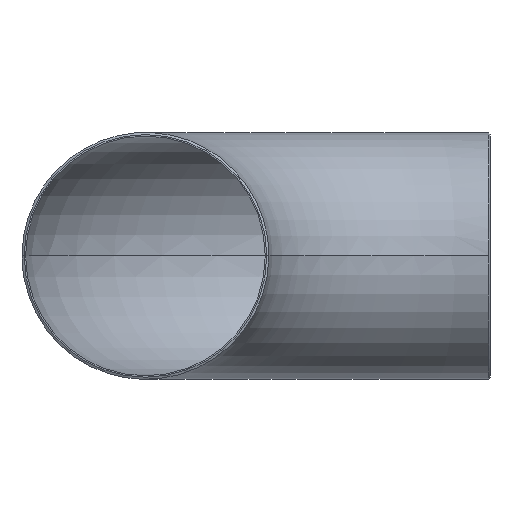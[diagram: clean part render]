
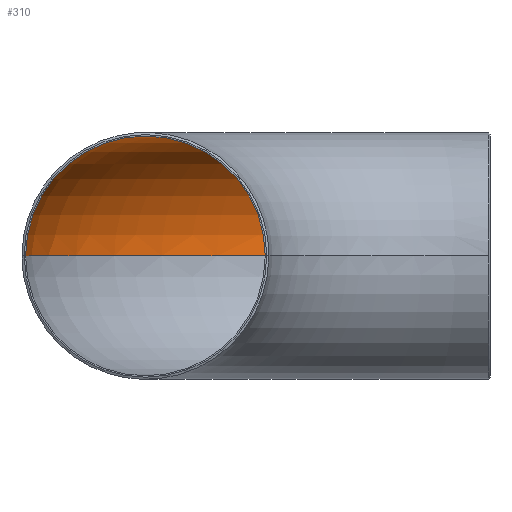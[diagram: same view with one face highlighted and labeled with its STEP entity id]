
A CAD part, front view. The second image highlights one B-rep face of the part: STEP entity #310.
In plain terms, the highlighted toroidal (fillet/blend) face has major radius 381 mm and minor radius 132.5 mm.
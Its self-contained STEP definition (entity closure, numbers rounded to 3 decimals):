
#5 = ORIENTED_EDGE ( 'NONE', *, *, #62, .T. ) ;
#16 = CIRCLE ( 'NONE', #535, 132.5 ) ;
#34 = VERTEX_POINT ( 'NONE', #73 ) ;
#59 = EDGE_LOOP ( 'NONE', ( #151, #491, #5, #279 ) ) ;
#62 = EDGE_CURVE ( 'NONE', #34, #305, #78, .T. ) ;
#73 = CARTESIAN_POINT ( 'NONE',  ( 381., 248.5, 0. ) ) ;
#78 = CIRCLE ( 'NONE', #488, 248.5 ) ;
#109 = DIRECTION ( 'NONE',  ( 1., 0., 0. ) ) ;
#114 = DIRECTION ( 'NONE',  ( 0., 0., 1. ) ) ;
#134 = VERTEX_POINT ( 'NONE', #232 ) ;
#145 = CARTESIAN_POINT ( 'NONE',  ( 381., 0., 0. ) ) ;
#151 = ORIENTED_EDGE ( 'NONE', *, *, #405, .F. ) ;
#175 = FACE_OUTER_BOUND ( 'NONE', #59, .T. ) ;
#196 = CIRCLE ( 'NONE', #456, 132.5 ) ;
#212 = CARTESIAN_POINT ( 'NONE',  ( 381., 0., 0. ) ) ;
#217 = DIRECTION ( 'NONE',  ( 0., 1., 0. ) ) ;
#232 = CARTESIAN_POINT ( 'NONE',  ( 381., 513.5, 0. ) ) ;
#236 = DIRECTION ( 'NONE',  ( 0., 0., 1. ) ) ;
#262 = DIRECTION ( 'NONE',  ( 1., 0., 0. ) ) ;
#265 = VERTEX_POINT ( 'NONE', #528 ) ;
#279 = ORIENTED_EDGE ( 'NONE', *, *, #308, .F. ) ;
#305 = VERTEX_POINT ( 'NONE', #424 ) ;
#307 = DIRECTION ( 'NONE',  ( 0., 1., 0. ) ) ;
#308 = EDGE_CURVE ( 'NONE', #265, #305, #196, .T. ) ;
#310 = ADVANCED_FACE ( 'NONE', ( #175 ), #394, .F. ) ;
#363 = DIRECTION ( 'NONE',  ( 0., 0., 1. ) ) ;
#394 = TOROIDAL_SURFACE ( 'NONE', #505, 381., 132.5 ) ;
#401 = CARTESIAN_POINT ( 'NONE',  ( 381., 381., 0. ) ) ;
#405 = EDGE_CURVE ( 'NONE', #134, #265, #425, .T. ) ;
#418 = EDGE_CURVE ( 'NONE', #134, #34, #16, .T. ) ;
#424 = CARTESIAN_POINT ( 'NONE',  ( 132.5, 0., 0. ) ) ;
#425 = CIRCLE ( 'NONE', #437, 513.5 ) ;
#437 = AXIS2_PLACEMENT_3D ( 'NONE', #212, #542, #262 ) ;
#456 = AXIS2_PLACEMENT_3D ( 'NONE', #538, #307, #363 ) ;
#459 = CARTESIAN_POINT ( 'NONE',  ( 381., 0., 0. ) ) ;
#488 = AXIS2_PLACEMENT_3D ( 'NONE', #459, #236, #551 ) ;
#491 = ORIENTED_EDGE ( 'NONE', *, *, #418, .T. ) ;
#501 = DIRECTION ( 'NONE',  ( 1., 0., 0. ) ) ;
#505 = AXIS2_PLACEMENT_3D ( 'NONE', #145, #114, #109 ) ;
#528 = CARTESIAN_POINT ( 'NONE',  ( -132.5, 0., 0. ) ) ;
#535 = AXIS2_PLACEMENT_3D ( 'NONE', #401, #501, #217 ) ;
#538 = CARTESIAN_POINT ( 'NONE',  ( 0., 0., 0. ) ) ;
#542 = DIRECTION ( 'NONE',  ( 0., 0., 1. ) ) ;
#551 = DIRECTION ( 'NONE',  ( 1., 0., 0. ) ) ;
